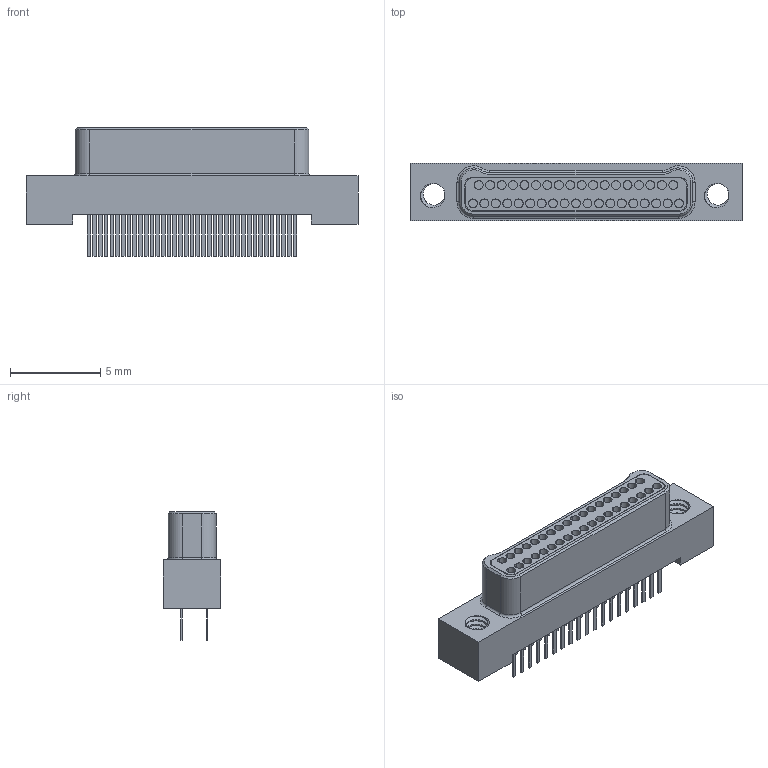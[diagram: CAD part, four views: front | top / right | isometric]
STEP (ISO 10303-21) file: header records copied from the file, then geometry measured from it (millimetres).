
FILE_DESCRIPTION (( 'STEP AP214' ), '1' );
FILE_NAME ('A28500-137 REV H.STEP', '2021-02-26T15:48:38', ( '' ), ( '' ), 'SwSTEP 2.0', 'SolidWorks 2019', '' );
FILE_SCHEMA (( 'AUTOMOTIVE_DESIGN' ));
Length unit declared in the file: inch
Products named in the file (1): A28500-137 REV H
Bounding box: 18.41 x 3.19 x 7.11 mm (x, y, z)
Volume: 175.7 mm3; surface area: 828.6 mm2
Topology: 1 solids, 3 shells, 693 faces, 1661 edges, 1100 vertices
Faces by surface type: plane 417, cylinder 202, bspline 54, cone 14, torus 6
Entity records: 34630 total; most frequent: CARTESIAN_POINT 9669, ORIENTED_EDGE 3322, DIRECTION 3105, EDGE_CURVE 1661, VECTOR 1101, LINE 1101, VERTEX_POINT 1100, AXIS2_PLACEMENT_3D 1002
